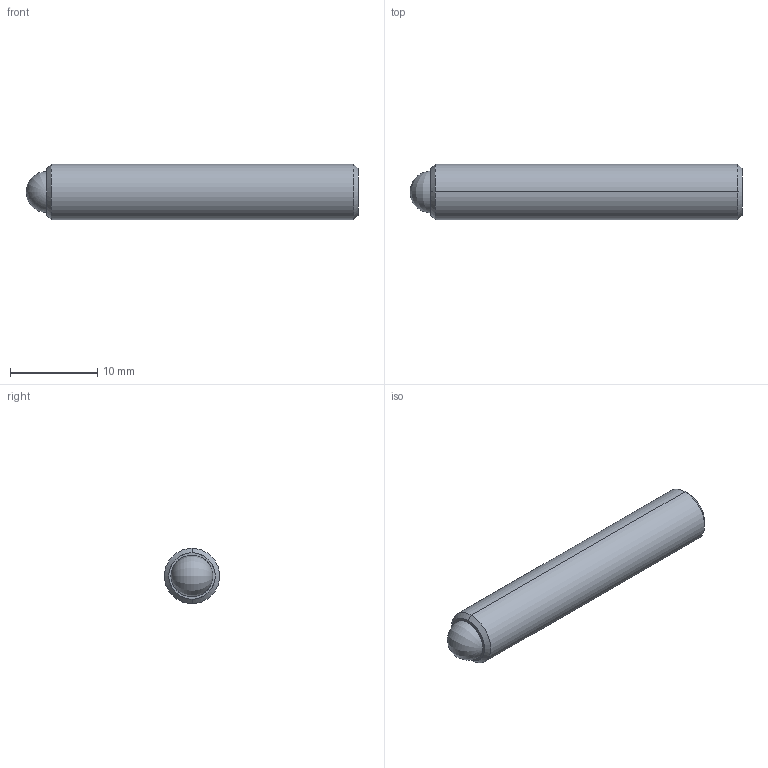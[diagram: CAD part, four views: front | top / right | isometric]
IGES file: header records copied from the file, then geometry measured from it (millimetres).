
Start section: SolidWorks IGES file using analytic representation for surfaces
Global section: file name: C:\Users\workpc\Desktop\KMA Solidworks\TS250-80 Series\TS250-80 High Vacuum\TS250-80 High Vacuum 3D Models\TS250-80-1500-AA-HV.IGS; native system: SolidWorks 2013; preprocessor: SolidWorks 2013; author: workpc; date: 130510.104052; units: inch
Bounding box: 38.1 x 6.35 x 6.35 mm (x, y, z)
Surface area: 886.1 mm2 (no closed solid volume)
Topology: 0 solids, 0 shells, 24 faces, 240 edges, 236 vertices
Faces by surface type: revolution 14, bspline 10
